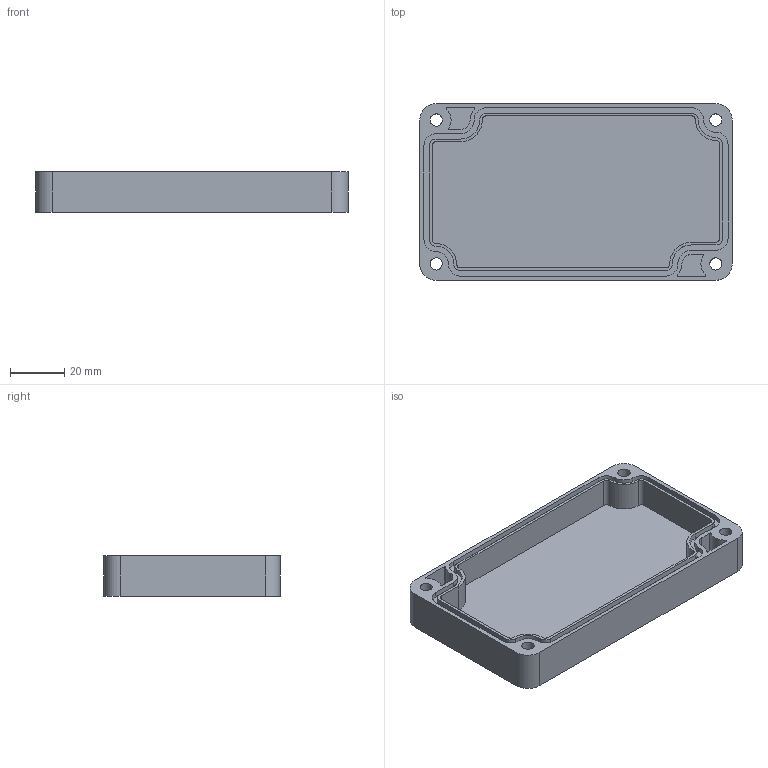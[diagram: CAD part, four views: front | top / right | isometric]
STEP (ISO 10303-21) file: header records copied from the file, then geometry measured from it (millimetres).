
FILE_DESCRIPTION(/* description */ (''),/* implementation_level */ '2;1');
FILE_NAME(/* name */ 'Lid - G205MF G308MF.step',/* time_stamp */ '2026-06-19T15:48:38+09:30',/* author */ (''),/* organization */ (''),/* preprocessor_version */ 'ST-DEVELOPER v20.1',/* originating_system */ 'Autodesk Translation Framework v15.8.0.0',/* authorisation */ '');
FILE_SCHEMA (('AUTOMOTIVE_DESIGN { 1 0 10303 214 3 1 1 }'));
Length unit declared in the file: millimetre
Products named in the file (2): G205MF G308MF; Component36
Assembly tree (1 placements, depth 2):
  G205MF G308MF
    Component36
Bounding box: 115 x 65 x 15 mm (x, y, z)
Volume: 46991.7 mm3; surface area: 29791.1 mm2
Topology: 9 solids, 9 shells, 332 faces, 880 edges, 586 vertices
Faces by surface type: plane 220, cylinder 104, cone 4, bspline 4
Full cylindrical faces by diameter (mm): 4.5 x4, 8 x4
Entity records: 10597 total; most frequent: CARTESIAN_POINT 2071, ORIENTED_EDGE 1760, DIRECTION 1736, EDGE_CURVE 880, LINE 658, VECTOR 658, VERTEX_POINT 586, AXIS2_PLACEMENT_3D 539
